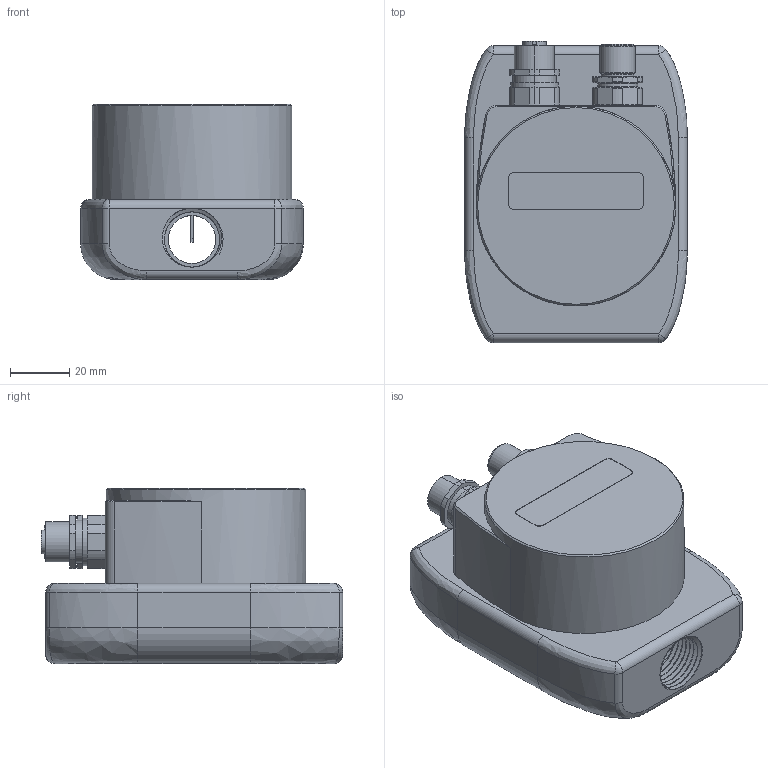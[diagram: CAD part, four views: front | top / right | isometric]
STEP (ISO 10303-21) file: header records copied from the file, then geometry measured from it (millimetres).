
FILE_DESCRIPTION(/* description */ (''),/* implementation_level */ '2;1');
FILE_NAME(/* name */ '551450_02_1-BGR_Inline_neu_0.5Zoll.stp',/* time_stamp */ '2018-04-13T08:37:29+02:00',/* author */ (''),/* organization */ (''),/* preprocessor_version */ 'ST-DEVELOPER v16',/* originating_system */ 'SIEMENS PLM Software NX 11.0',/* authorisation */ '');
FILE_SCHEMA (('AP203_CONFIGURATION_CONTROLLED_3D_DESIGN_OF_MECHANICAL_PARTS_AND_ASSEMBLIES_MIM_LF { 1 0 10303 403 2 1 2}'));
Length unit declared in the file: millimetre
Products named in the file (1): kien2C709FBA40ww
Bounding box: 75 x 101.5 x 59 mm (x, y, z)
Volume: 293655.5 mm3; surface area: 39241.9 mm2
Topology: 1 solids, 1 shells, 309 faces, 755 edges, 472 vertices
Faces by surface type: plane 107, cylinder 93, bspline 36, cone 36, revolution 23, extrusion 6, torus 4, sphere 4
Full cylindrical faces by diameter (mm): 1 x1, 16.1 x1, 21.8 x2, 67.3 x1
Entity records: 14459 total; most frequent: CARTESIAN_POINT 7307, DIRECTION 1489, ORIENTED_EDGE 1466, EDGE_CURVE 733, AXIS2_PLACEMENT_3D 577, VERTEX_POINT 467, EDGE_LOOP 352, CIRCLE 324
